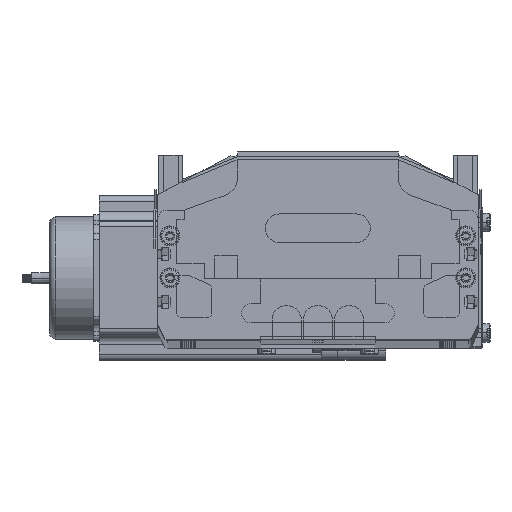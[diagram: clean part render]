
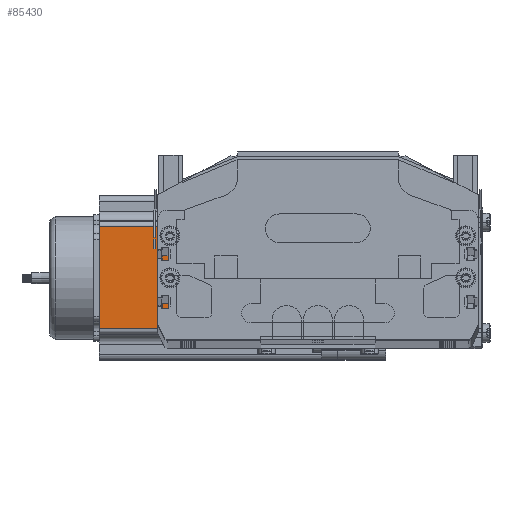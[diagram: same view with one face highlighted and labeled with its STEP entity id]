
A CAD part, top view. The second image highlights one B-rep face of the part: STEP entity #85430.
In plain terms, the highlighted planar face has unit normal (0, 0, 1) as drawn and (0, -1, 0) by its records, which use the part's own axes.
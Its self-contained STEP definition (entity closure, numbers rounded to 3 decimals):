
#1184 = CARTESIAN_POINT ( 'NONE',  ( 16.16, 0., 0. ) ) ;
#1187 = AXIS2_PLACEMENT_3D ( 'NONE', #1213, #1212, #1223 ) ;
#1194 = DIRECTION ( 'NONE',  ( 0., 0., -1. ) ) ;
#1197 = VECTOR ( 'NONE', #1194, 1000. ) ;
#1198 = DIRECTION ( 'NONE',  ( 1., 0., 0. ) ) ;
#1199 = VECTOR ( 'NONE', #1198, 1000. ) ;
#1201 = CARTESIAN_POINT ( 'NONE',  ( 16.16, 0., 116.5 ) ) ;
#1202 = CARTESIAN_POINT ( 'NONE',  ( 16.16, 0., 116.5 ) ) ;
#1203 = LINE ( 'NONE', #1202, #1197 ) ;
#1210 = CARTESIAN_POINT ( 'NONE',  ( 0., 0., 116.5 ) ) ;
#1211 = LINE ( 'NONE', #1210, #1199 ) ;
#1212 = DIRECTION ( 'NONE',  ( 0., 1., 0. ) ) ;
#1213 = CARTESIAN_POINT ( 'NONE',  ( 0., 0., 116.5 ) ) ;
#1218 = CARTESIAN_POINT ( 'NONE',  ( 69.74, 0., 116.5 ) ) ;
#1219 = DIRECTION ( 'NONE',  ( 0., 0., 1. ) ) ;
#1220 = VECTOR ( 'NONE', #1219, 1000. ) ;
#1223 = DIRECTION ( 'NONE',  ( 0., 0., 1. ) ) ;
#1226 = CARTESIAN_POINT ( 'NONE',  ( 69.74, 0., 0. ) ) ;
#1227 = CARTESIAN_POINT ( 'NONE',  ( 69.74, 0., 116.5 ) ) ;
#1229 = LINE ( 'NONE', #1227, #1220 ) ;
#1230 = PLANE ( 'NONE',  #1187 ) ;
#1235 = FACE_OUTER_BOUND ( 'NONE', #85379, .T. ) ;
#33900 = LINE ( 'NONE', #33969, #33968 ) ;
#33967 = DIRECTION ( 'NONE',  ( 1., 0., 0. ) ) ;
#33968 = VECTOR ( 'NONE', #33967, 1000. ) ;
#33969 = CARTESIAN_POINT ( 'NONE',  ( 0., 0., 0. ) ) ;
#85379 = EDGE_LOOP ( 'NONE', ( #85428, #85432, #85408, #85429 ) ) ;
#85407 = VERTEX_POINT ( 'NONE', #1218 ) ;
#85408 = ORIENTED_EDGE ( 'NONE', *, *, #85409, .F. ) ;
#85409 = EDGE_CURVE ( 'NONE', #85410, #85407, #1211, .T. ) ;
#85410 = VERTEX_POINT ( 'NONE', #1201 ) ;
#85411 = EDGE_CURVE ( 'NONE', #85410, #85436, #1203, .T. ) ;
#85428 = ORIENTED_EDGE ( 'NONE', *, *, #85542, .T. ) ;
#85429 = ORIENTED_EDGE ( 'NONE', *, *, #85411, .T. ) ;
#85430 = ADVANCED_FACE ( 'NONE', ( #1235 ), #1230, .F. ) ;
#85431 = VERTEX_POINT ( 'NONE', #1226 ) ;
#85432 = ORIENTED_EDGE ( 'NONE', *, *, #85433, .T. ) ;
#85433 = EDGE_CURVE ( 'NONE', #85431, #85407, #1229, .T. ) ;
#85436 = VERTEX_POINT ( 'NONE', #1184 ) ;
#85542 = EDGE_CURVE ( 'NONE', #85436, #85431, #33900, .T. ) ;
